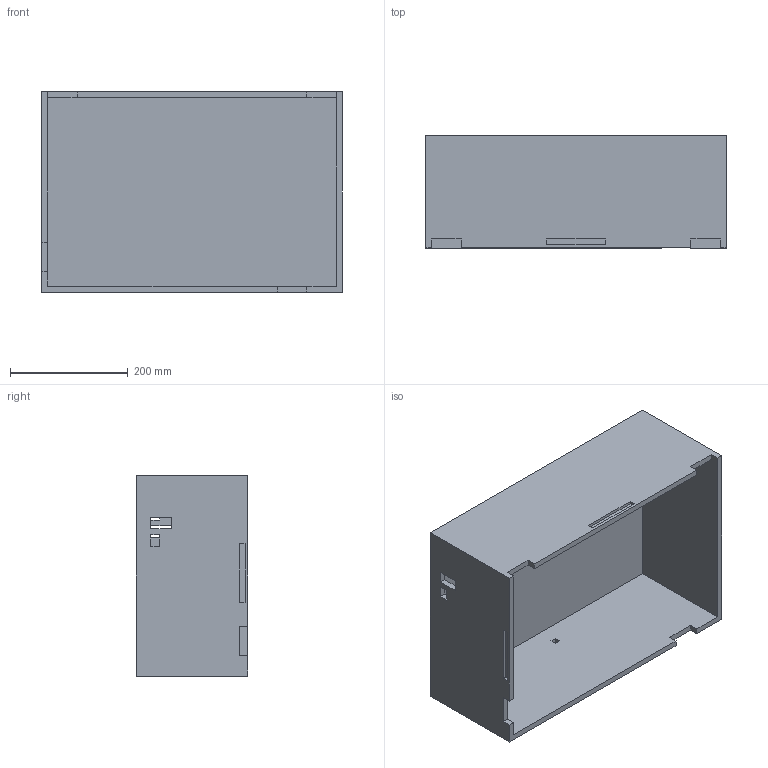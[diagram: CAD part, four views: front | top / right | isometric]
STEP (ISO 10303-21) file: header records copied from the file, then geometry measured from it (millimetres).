
FILE_DESCRIPTION(/* description */ (''),/* implementation_level */ '2;1');
FILE_NAME(/* name */ '',/* time_stamp */ '2025-09-04T11:37:01+08:00',/* author */ ('Q'),/* organization */ (''),/* preprocessor_version */ 'ST-DEVELOPER v20',/* originating_system */ 'Autodesk Inventor 2025',/* authorisation */ '');
FILE_SCHEMA (('AUTOMOTIVE_DESIGN { 1 0 10303 214 3 1 1 }'));
Length unit declared in the file: centimetre
Products named in the file (1): 遮光罩
Bounding box: 510 x 190 x 340 mm (x, y, z)
Volume: 4651000 mm3; surface area: 960800 mm2
Topology: 1 solids, 1 shells, 64 faces, 247 edges, 279 vertices
Faces by surface type: plane 64
Entity records: 2369 total; most frequent: CARTESIAN_POINT 518, ORIENTED_EDGE 348, DIRECTION 304, LINE 174, VECTOR 174, EDGE_CURVE 174, VERTEX_POINT 116, EDGE_LOOP 78
